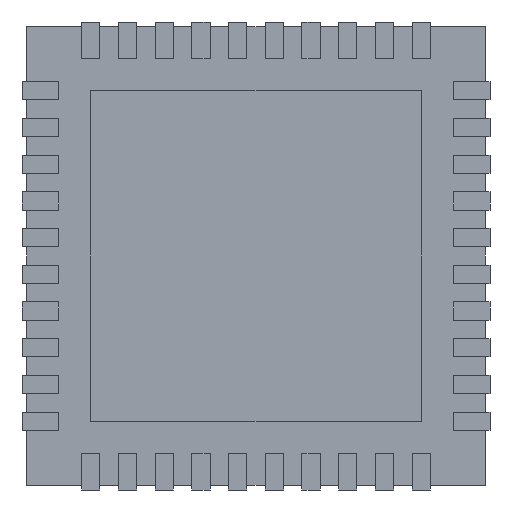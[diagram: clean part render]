
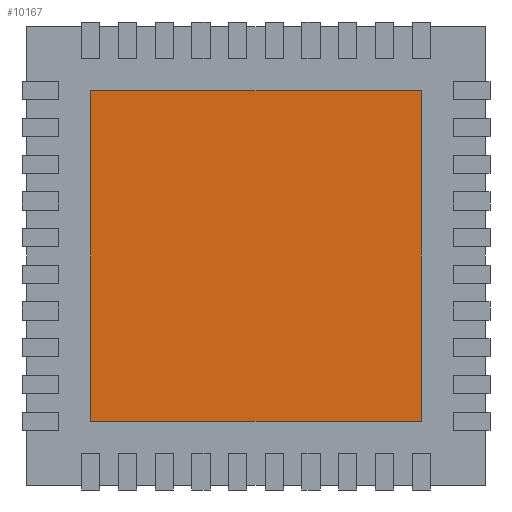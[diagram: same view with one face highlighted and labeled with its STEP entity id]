
A CAD part, front view. The second image highlights one B-rep face of the part: STEP entity #10167.
In plain terms, the highlighted planar face has unit normal (0, -1, 0).
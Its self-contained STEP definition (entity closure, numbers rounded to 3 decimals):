
#10020 = CARTESIAN_POINT ( 'NONE',  ( 1.8, 0., 1.8 ) ) ;
#10021 = VERTEX_POINT ( 'NONE', #10020 ) ;
#10022 = CARTESIAN_POINT ( 'NONE',  ( 1.8, 0., -1.8 ) ) ;
#10023 = VERTEX_POINT ( 'NONE', #10022 ) ;
#10024 = CARTESIAN_POINT ( 'NONE',  ( 1.8, 0., 1.8 ) ) ;
#10025 = DIRECTION ( 'NONE',  ( 0., 0., -1. ) ) ;
#10026 = VECTOR ( 'NONE', #10025, 1000. ) ;
#10027 = LINE ( 'NONE', #10024, #10026 ) ;
#10028 = EDGE_CURVE ( 'NONE', #10021, #10023, #10027, .T. ) ;
#10060 = CARTESIAN_POINT ( 'NONE',  ( -1.8, 0., -1.8 ) ) ;
#10061 = VERTEX_POINT ( 'NONE', #10060 ) ;
#10062 = CARTESIAN_POINT ( 'NONE',  ( -1.8, 0., -1.8 ) ) ;
#10063 = DIRECTION ( 'NONE',  ( -1., 0., 0. ) ) ;
#10064 = VECTOR ( 'NONE', #10063, 1000. ) ;
#10065 = LINE ( 'NONE', #10062, #10064 ) ;
#10066 = EDGE_CURVE ( 'NONE', #10023, #10061, #10065, .T. ) ;
#10091 = CARTESIAN_POINT ( 'NONE',  ( -1.8, 0., 1.8 ) ) ;
#10092 = VERTEX_POINT ( 'NONE', #10091 ) ;
#10093 = CARTESIAN_POINT ( 'NONE',  ( -1.8, 0., 1.8 ) ) ;
#10094 = DIRECTION ( 'NONE',  ( 0., 0., 1. ) ) ;
#10095 = VECTOR ( 'NONE', #10094, 1000. ) ;
#10096 = LINE ( 'NONE', #10093, #10095 ) ;
#10097 = EDGE_CURVE ( 'NONE', #10061, #10092, #10096, .T. ) ;
#10122 = CARTESIAN_POINT ( 'NONE',  ( -1.8, 0., 1.8 ) ) ;
#10123 = DIRECTION ( 'NONE',  ( 1., 0., 0. ) ) ;
#10124 = VECTOR ( 'NONE', #10123, 1000. ) ;
#10125 = LINE ( 'NONE', #10122, #10124 ) ;
#10126 = EDGE_CURVE ( 'NONE', #10092, #10021, #10125, .T. ) ;
#10156 = ORIENTED_EDGE ( 'NONE', *, *, #10028, .F. ) ;
#10157 = ORIENTED_EDGE ( 'NONE', *, *, #10126, .F. ) ;
#10158 = ORIENTED_EDGE ( 'NONE', *, *, #10097, .F. ) ;
#10159 = ORIENTED_EDGE ( 'NONE', *, *, #10066, .F. ) ;
#10160 = EDGE_LOOP ( 'NONE', ( #10156, #10157, #10158, #10159 ) ) ;
#10161 = FACE_OUTER_BOUND ( 'NONE', #10160, .T. ) ;
#10162 = CARTESIAN_POINT ( 'NONE',  ( 0., 0., 0. ) ) ;
#10163 = DIRECTION ( 'NONE',  ( 0., -1., 0. ) ) ;
#10164 = DIRECTION ( 'NONE',  ( 0., 0., -1. ) ) ;
#10165 = AXIS2_PLACEMENT_3D ( 'NONE', #10162, #10163, #10164 ) ;
#10166 = PLANE ( 'NONE', #10165 ) ;
#10167 = ADVANCED_FACE ( 'NONE', ( #10161 ), #10166, .T. ) ;
